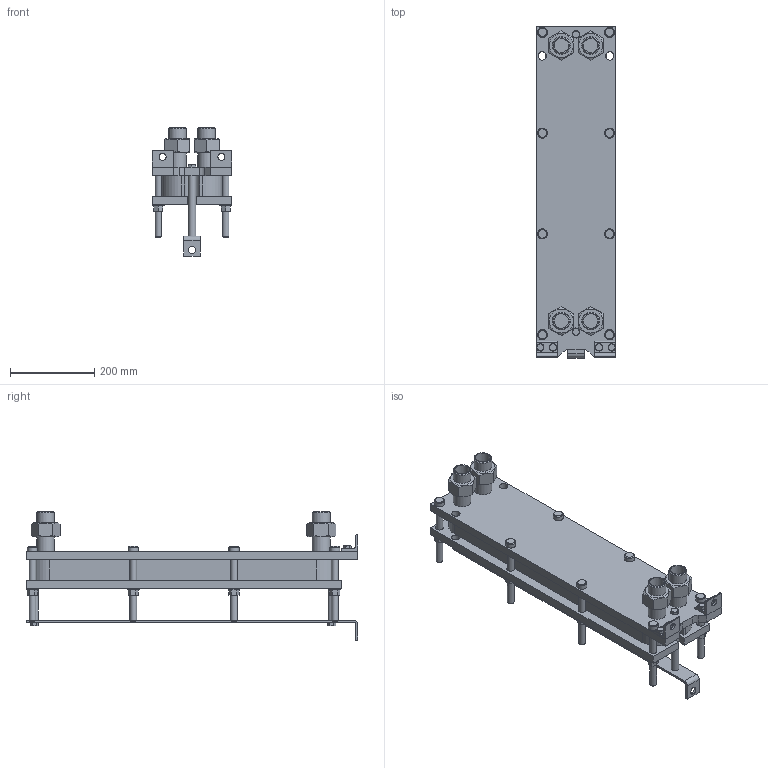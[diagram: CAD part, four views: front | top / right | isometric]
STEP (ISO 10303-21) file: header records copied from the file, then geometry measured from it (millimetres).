
FILE_DESCRIPTION(/* description */ (''),/* implementation_level */ '2;1');
FILE_NAME(/* name */ 'C:\Users\zhuro\Desktop\ENCO\TO\ЭН-008\ЭН-0,5-008-16-1.stp',/* time_stamp */ '2022-06-06T10:46:09+03:00',/* author */ ('zhuro'),/* organization */ (''),/* preprocessor_version */ 'ST-DEVELOPER v18.1',/* originating_system */ 'Autodesk Inventor 2022',/* authorisation */ '');
FILE_SCHEMA (('AUTOMOTIVE_DESIGN { 1 0 10303 214 3 1 1 }'));
Length unit declared in the file: millimetre
Products named in the file (1): ЭН-0,5-008-16-1
Bounding box: 190 x 790 x 305.8 mm (x, y, z)
Volume: 11672970.4 mm3; surface area: 1310983 mm2
Topology: 40 solids, 40 shells, 428 faces, 924 edges, 606 vertices
Faces by surface type: plane 273, cylinder 109, cone 40, torus 6
Full cylindrical faces by diameter (mm): 12 x6, 14 x2, 16 x20, 17 x8, 18 x19, 20 x5, 24 x8, 28 x8, 34.3 x8, 42.3 x8
Entity records: 15843 total; most frequent: CARTESIAN_POINT 5991, DIRECTION 1984, ORIENTED_EDGE 1848, EDGE_CURVE 924, AXIS2_PLACEMENT_3D 715, VERTEX_POINT 606, LINE 554, VECTOR 554
